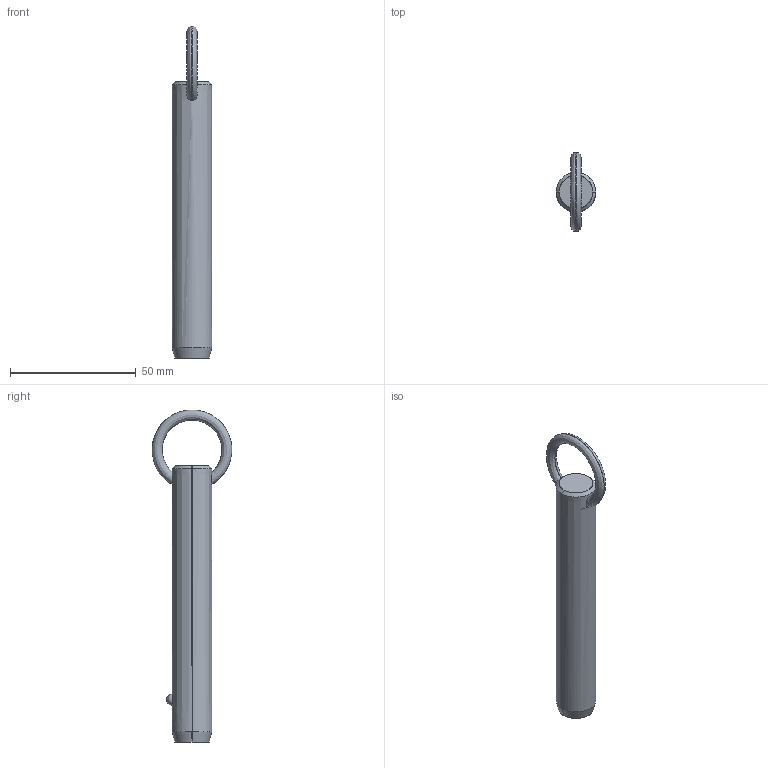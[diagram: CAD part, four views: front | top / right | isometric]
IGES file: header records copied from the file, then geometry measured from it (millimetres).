
Start section: SolidWorks IGES file using analytic representation for surfaces
Global section: file name: C:\Users\liam_\OneDrive\Documents\WORK\Work for WixRoyd\Job Files\J-00019 - Matt Davis CAD Checking\04. CAD Drawings\automotion20190605\P1250.2_v2\P1250.2_v2_20190729_IGES\P1250.062-320.igs; native system: SolidWorks 2017; preprocessor: SolidWorks 2017; author: liam_; date: 190729.233455; units: millimetre
Bounding box: 15.8 x 31.66 x 132 mm (x, y, z)
Surface area: 6624 mm2 (no closed solid volume)
Topology: 0 solids, 0 shells, 12 faces, 292 edges, 290 vertices
Faces by surface type: revolution 8, bspline 4
